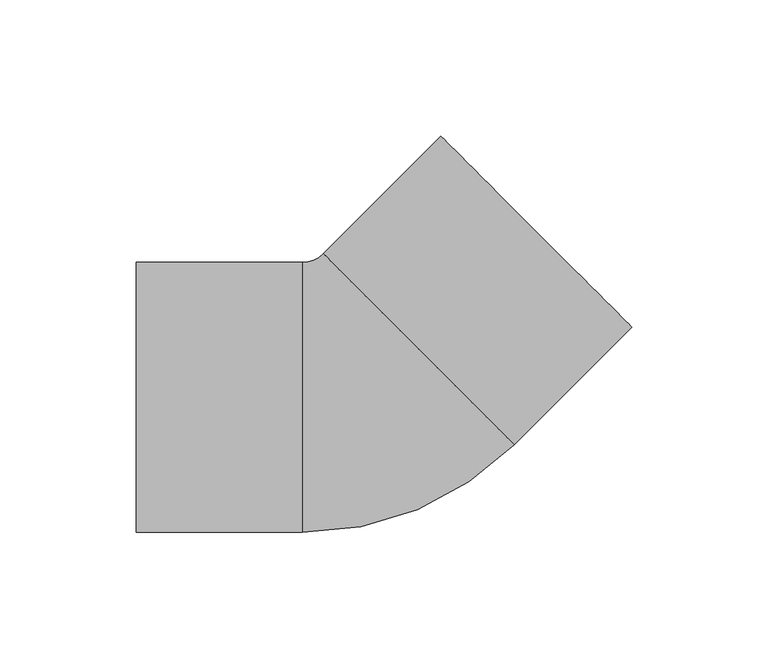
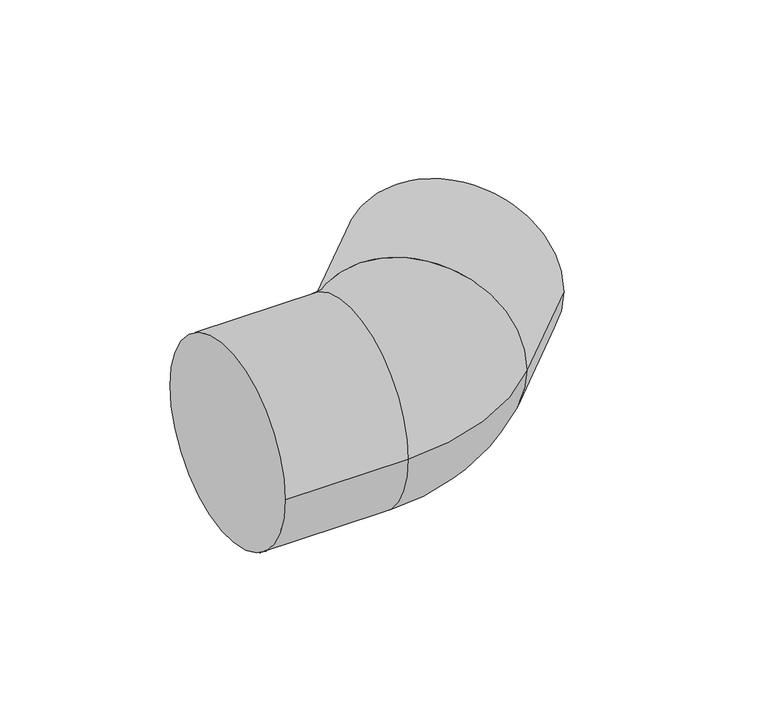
"""IFC4 building model written with IfcOpenShell, lengths in millimetres: pipe fitting geometry, 01051067 : Joelho a 45º."""

import ifcopenshell
import ifcopenshell.guid

model = None  # the IFC model being written
_history = None  # IfcOwnerHistory: only IFC2X3 demands one
_inside = {}  # id of a spatial element -> (the spatial element, [elements in it])
_under = {}  # id of a project, library or spatial element -> (it, [spatial elements below it])
_declared = {}  # id of a project -> (the project, [libraries it declares])
_typed = {}  # id of a type object -> (the type object, [elements of that type])
_made_of = {}  # id of a material, layer set ... -> (it, [elements and type objects made of it])


def new_model(schema):
    """Start an empty IFC model of exactly this schema.

    Asked for "IFC4X3", IfcOpenShell would pick the latest addendum, in which some entities
    have other attributes; the version numbers below select the first issue.
    IFC2X3 requires an IfcOwnerHistory on every rooted entity: one is made here for all.
    """
    global model, _history
    if schema == "IFC4X3":
        model = ifcopenshell.file(schema_version=(4, 3, 0, 0))
    else:
        model = ifcopenshell.file(schema=schema)
    _inside.clear()
    _under.clear()
    _declared.clear()
    _typed.clear()
    _made_of.clear()
    _history = None
    if model.schema == "IFC2X3":
        org = make("IfcOrganization", Name="unknown")
        user = make(
            "IfcPersonAndOrganization",
            ThePerson=make("IfcPerson", FamilyName="unknown"),
            TheOrganization=org,
        )
        app = make(
            "IfcApplication",
            ApplicationDeveloper=org,
            Version="unknown",
            ApplicationFullName="unknown",
            ApplicationIdentifier="unknown",
        )
        _history = make(
            "IfcOwnerHistory",
            OwningUser=user,
            OwningApplication=app,
            ChangeAction="ADDED",
            CreationDate=0,
        )
    return model


def make(cls, **values):
    """One entity of the class cls with the attributes given. An attribute that is None is left unset."""
    return model.create_entity(
        cls, **{name: value for name, value in values.items() if value is not None}
    )


def rooted(cls, **values):
    """An entity with a GlobalId (a new one), such as an element, a storey or a relation."""
    return make(cls, GlobalId=ifcopenshell.guid.new(), OwnerHistory=_history, **values)


def si_unit(unit_type, name, prefix=None):
    """IfcSIUnit, for example si_unit("LENGTHUNIT", "METRE", prefix="MILLI")."""
    return make("IfcSIUnit", UnitType=unit_type, Prefix=prefix, Name=name)


def assignment(units):
    """IfcUnitAssignment: the units of a project."""
    return None if units is None else make("IfcUnitAssignment", Units=units)


def point(xyz):
    """IfcCartesianPoint."""
    return None if xyz is None else make("IfcCartesianPoint", Coordinates=xyz)


def direction(xyz):
    """IfcDirection."""
    return None if xyz is None else make("IfcDirection", DirectionRatios=xyz)


def frame(location, z_axis=None, x_axis=None):
    """IfcAxis2Placement3D, a coordinate frame: its origin and axes. An axis left out is left unset."""
    return make(
        "IfcAxis2Placement3D",
        Location=point(location),
        Axis=direction(z_axis),
        RefDirection=direction(x_axis),
    )


def origin():
    """The frame at (0, 0, 0) with its axes left unset."""
    return frame((0.0, 0.0, 0.0))


def place(relative_to, where):
    """IfcLocalPlacement: puts the frame where relative to a parent placement (None: the world)."""
    return make(
        "IfcLocalPlacement", PlacementRelTo=relative_to, RelativePlacement=where
    )


def context(
    kind, dimensions, precision=None, world=None, true_north=None, identifier=None
):
    """IfcGeometricRepresentationContext, for example the 3D "Model" context."""
    return make(
        "IfcGeometricRepresentationContext",
        ContextIdentifier=identifier,
        ContextType=kind,
        CoordinateSpaceDimension=dimensions,
        Precision=precision,
        WorldCoordinateSystem=world,
        TrueNorth=true_north,
    )


def project(units=None, contexts=None):
    """IfcProject with its units and contexts."""
    return rooted(
        "IfcProject",
        Name="project",
        RepresentationContexts=contexts,
        UnitsInContext=assignment(units),
    )


def spatial(cls, under=None, at=None, **own):
    """A site, building, storey or space (cls), placed at a placement, below another one or the project."""
    s = rooted(cls, ObjectPlacement=at, **own)
    if under is not None:
        _under.setdefault(under.id(), (under, []))[1].append(s)
    return s


def circle_curve(where, radius):
    """IfcCircle in the frame where."""
    return make("IfcCircle", Position=where, Radius=radius)


def ellipse_curve(where, semi_axis1, semi_axis2):
    """IfcEllipse in the frame where."""
    return make(
        "IfcEllipse", Position=where, SemiAxis1=semi_axis1, SemiAxis2=semi_axis2
    )


def trimmed(basis, trim1, trim2, sense, master):
    """IfcTrimmedCurve: the piece of a basis curve between two trims."""
    return make(
        "IfcTrimmedCurve",
        BasisCurve=basis,
        Trim1=trim1,
        Trim2=trim2,
        SenseAgreement=sense,
        MasterRepresentation=master,
    )


def shape(context_of_items, identifier, shape_type, items):
    """IfcShapeRepresentation: the items that make up one representation, for example the "Body"."""
    return make(
        "IfcShapeRepresentation",
        ContextOfItems=context_of_items,
        RepresentationIdentifier=identifier,
        RepresentationType=shape_type,
        Items=items,
    )


def source(mapping_origin, context_of_items, identifier, shape_type, items):
    """IfcRepresentationMap: a shape defined once, which mapped items show again and again."""
    return make(
        "IfcRepresentationMap",
        MappingOrigin=mapping_origin,
        MappedRepresentation=shape(context_of_items, identifier, shape_type, items),
    )


def transform(
    local_origin,
    x_axis=None,
    y_axis=None,
    z_axis=None,
    scale=None,
    scale2=None,
    scale3=None,
    uniform=True,
):
    """IfcCartesianTransformationOperator3D, or its non-uniform kind. x_axis, y_axis, z_axis: its Axis1, 2, 3."""
    if uniform:
        return make(
            "IfcCartesianTransformationOperator3D",
            Axis1=direction(x_axis),
            Axis2=direction(y_axis),
            LocalOrigin=point(local_origin),
            Scale=scale,
            Axis3=direction(z_axis),
        )
    return make(
        "IfcCartesianTransformationOperator3DnonUniform",
        Axis1=direction(x_axis),
        Axis2=direction(y_axis),
        LocalOrigin=point(local_origin),
        Scale=scale,
        Axis3=direction(z_axis),
        Scale2=scale2,
        Scale3=scale3,
    )


def mapped(mapping_source, mapping_target):
    """IfcMappedItem: shows the shape of a source again, moved by a transform."""
    return make(
        "IfcMappedItem", MappingSource=mapping_source, MappingTarget=mapping_target
    )


def made_of(thing, what):
    """Note that an element or type object is made of a material, layer set ...; save() writes the relation."""
    if what is not None:
        _made_of.setdefault(what.id(), (what, []))[1].append(thing)
    return thing


def element(
    cls,
    number,
    at=None,
    inside=None,
    cuts=None,
    type_object=None,
    material=None,
    context=None,
    identifier="Body",
    shape_type=None,
    held_by="IfcProductDefinitionShape",
    body=None,
    shapes=None,
    **own,
):
    """One element of the class cls, such as IfcWall. Its Tag is "e" and its number.

    at: its placement. inside: the storey or other place that contains it. cuts: it is an
    opening in that element (IfcRelVoidsElement). A single representation is given by context,
    identifier, shape_type and body (its items); several are given by shapes. held_by: the class
    of the entity that holds the representations. save() writes the other relations.
    """
    e = rooted(cls, Tag="e%d" % number, ObjectPlacement=at, **own)
    if body is not None:
        shapes = [shape(context, identifier, shape_type, body)]
    if shapes is not None:
        e.Representation = make(held_by, Representations=shapes)
    if inside is not None:
        _inside.setdefault(inside.id(), (inside, []))[1].append(e)
    if cuts is not None:
        rooted(
            "IfcRelVoidsElement", RelatingBuildingElement=cuts, RelatedOpeningElement=e
        )
    if type_object is not None:
        _typed.setdefault(type_object.id(), (type_object, []))[1].append(e)
    return made_of(e, material)


def aggregate(whole, parts):
    """IfcRelAggregates: a whole, such as a stair, and the parts it consists of."""
    return rooted("IfcRelAggregates", RelatingObject=whole, RelatedObjects=parts)


def save(model, path):
    """Write the relations noted so far, then the file.

    IfcRelAggregates (storeys below a building ...), IfcRelContainedInSpatialStructure (elements
    in a storey), IfcRelDefinesByType, IfcRelAssociatesMaterial and IfcRelDeclares: one each for
    every whole, place, type object, material and project.
    """
    for whole, parts in _under.values():
        aggregate(whole, parts)
    for where, things in _inside.values():
        rooted(
            "IfcRelContainedInSpatialStructure",
            RelatedElements=things,
            RelatingStructure=where,
        )
    for kind, things in _typed.values():
        rooted("IfcRelDefinesByType", RelatedObjects=things, RelatingType=kind)
    for what, things in _made_of.values():
        rooted("IfcRelAssociatesMaterial", RelatedObjects=things, RelatingMaterial=what)
    for by, libraries in _declared.values():
        rooted("IfcRelDeclares", RelatingContext=by, RelatedDefinitions=libraries)
    model.write(path)


def plane_surface(at):
    """IfcPlane: the flat surface through the origin of the frame at, square to its z axis."""
    return make("IfcPlane", Position=at)


def cylinder_surface(at, radius):
    """IfcCylindricalSurface: all points at the distance radius from the z axis of the frame at."""
    return make("IfcCylindricalSurface", Position=at, Radius=radius)


def revolved_surface(curve, axis_point, axis_direction):
    """IfcSurfaceOfRevolution: the curve turned about the line through axis_point along axis_direction."""
    return make(
        "IfcSurfaceOfRevolution",
        SweptCurve=make("IfcArbitraryOpenProfileDef", ProfileType="CURVE", Curve=curve),
        AxisPosition=make("IfcAxis1Placement", Location=point(axis_point), Axis=direction(axis_direction)),
    )


def advanced_brep(points, edges, surfaces, faces):
    """IfcAdvancedBrep: a solid bounded by faces that lie on surfaces and meet in shared edges.

    An edge is (start, end): straight between two places in points (the first is 0);
    or (start, end, curve); or (start, end, curve, False) where it runs against its curve.
    A face is (place in surfaces, loops), or (place, loops, False) where it looks against
    its surface's normal. A loop lists edges by number (the first is 1), with a minus sign
    where the edge is run from its end to its start. The first loop is the outer one.
    """
    corners = [point(p) for p in points]
    vertices = [make("IfcVertexPoint", VertexGeometry=c) for c in corners]
    made = []
    for start, end, *more in edges:
        made.append(
            make(
                "IfcEdgeCurve",
                EdgeStart=vertices[start],
                EdgeEnd=vertices[end],
                EdgeGeometry=more[0] if more else make("IfcPolyline", Points=[corners[start], corners[end]]),
                SameSense=more[1] if len(more) > 1 else True,
            )
        )
    hull = []
    for where, loops, *sense in faces:
        bounds = []
        for j, loop in enumerate(loops):
            ring = [make("IfcOrientedEdge", EdgeElement=made[abs(k) - 1], Orientation=k > 0) for k in loop]
            bounds.append(
                make(
                    "IfcFaceOuterBound" if j == 0 else "IfcFaceBound",
                    Bound=make("IfcEdgeLoop", EdgeList=ring),
                    Orientation=True,
                )
            )
        hull.append(make("IfcAdvancedFace", Bounds=bounds, FaceSurface=surfaces[where], SameSense=sense[0] if sense else True))
    return make("IfcAdvancedBrep", Outer=make("IfcClosedShell", CfsFaces=hull))


def pipe_fitting_5fb77799(model_context):
    return source(origin(), model_context, "Body", "AdvancedBrep", [
        advanced_brep(
        [(-86.0, -49.5, 0.0), (-86.0, 49.5, 0.0), (-25.0, -49.5, 0.0), (-25.0, 49.5, 0.0), (-17.3241161, 52.6794552, 0.0), (52.6794552, -17.3241161, 0.0), (95.8129689, 25.8093975, 0.0), (25.8093975, 95.8129689, 0.0)],
        [
            (0, 1, circle_curve(frame((-86.0, 0.0, 0.0), z_axis=(-1.0, 0.0, 0.0), x_axis=(0.0, 1.0, 0.0)), 49.5)),
            (1, 0, circle_curve(frame((-86.0, 0.0, 0.0), z_axis=(-1.0, 0.0, 0.0), x_axis=(0.0, 1.0, 0.0)), 49.5)),
            (0, 2),
            (2, 3, circle_curve(frame((-25.0, 0.0, 0.0), z_axis=(-1.0, 0.0, 0.0), x_axis=(0.0, 1.0, 0.0)), 49.5)),
            (3, 1),
            (3, 2, circle_curve(frame((-25.0, 0.0, 0.0), z_axis=(-1.0, 0.0, 0.0), x_axis=(0.0, 1.0, 0.0)), 49.5)),
            (4, 3, circle_curve(frame((-25.0, 60.3553391, 0.0), z_axis=(0.0, 0.0, -1.0), x_axis=(0.0, -1.0, 0.0)), 10.8553391)),
            (2, 5, circle_curve(frame((-25.0, 60.3553391, 0.0), z_axis=(0.0, 0.0, 1.0), x_axis=(0.0, -1.0, 0.0)), 109.8553391)),
            (5, 4, circle_curve(frame((17.6776695, 17.6776695, 0.0), z_axis=(-0.7071067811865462, -0.7071067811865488, 0.0), x_axis=(-0.7071067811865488, 0.7071067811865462, 0.0)), 49.5)),
            (4, 5, circle_curve(frame((17.6776695, 17.6776695, 0.0), z_axis=(-0.7071067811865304, -0.7071067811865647, 0.0), x_axis=(-0.7071067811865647, 0.7071067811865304, 0.0)), 49.5)),
            (6, 7, circle_curve(frame((60.8111832, 60.8111832, 0.0), z_axis=(0.7071067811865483, 0.7071067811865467, 0.0), x_axis=(-0.7071067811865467, 0.7071067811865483, 0.0)), 49.5)),
            (7, 6, circle_curve(frame((60.8111832, 60.8111832, 0.0), z_axis=(0.7071067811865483, 0.7071067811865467, 0.0), x_axis=(-0.7071067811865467, 0.7071067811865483, 0.0)), 49.5)),
            (5, 6),
            (7, 4),
        ],
        [
            plane_surface(frame((-86.0, 0.0, 0.0), z_axis=(-1.0, 0.0, 0.0), x_axis=(0.0, 0.0, 1.0))),
            cylinder_surface(frame((-86.0, 0.0, 0.0), z_axis=(-1.0, 0.0, 0.0), x_axis=(0.0, 1.0, 0.0)), 49.5),
            revolved_surface(trimmed(ellipse_curve(frame((-25.0, 0.0, 0.0), z_axis=(-1.0, 0.0, 0.0), x_axis=(0.0, 1.0, 0.0)), 49.5, 49.5), [point((-25.0, -49.5, 0.0))], [point((-25.0, 49.5, 0.0))], True, "CARTESIAN"), (-25.0, 60.3553391, 0.0), (0.0, 0.0, 1.0)),
            revolved_surface(trimmed(ellipse_curve(frame((-25.0, 0.0, 0.0), z_axis=(-1.0, 0.0, 0.0), x_axis=(0.0, 1.0, 0.0)), 49.5, 49.5), [point((-25.0, 49.5, 0.0))], [point((-25.0, -49.5, 0.0))], True, "CARTESIAN"), (-25.0, 60.3553391, 0.0), (0.0, 0.0, 1.0)),
            plane_surface(frame((60.8111832, 60.8111832, 0.0), z_axis=(0.7071067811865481, 0.707106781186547, 0.0), x_axis=(0.0, 0.0, 1.0))),
            cylinder_surface(frame((17.6776695, 17.6776695, 0.0), z_axis=(-0.7071067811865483, -0.7071067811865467, 0.0), x_axis=(-0.7071067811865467, 0.7071067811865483, 0.0)), 49.5),
        ],
        [
            (0, [[1, 2]]),
            (1, [[-1, 3, 4, 5]]),
            (1, [[-2, -5, 6, -3]]),
            (2, [[7, -4, 8, 9]]),
            (3, [[-8, -6, -7, 10]]),
            (4, [[11, 12]]),
            (5, [[-9, 13, -12, 14]]),
            (5, [[-10, -14, -11, -13]]),
        ],
    ),
    ])


if __name__ == "__main__":
    model = new_model("IFC4")
    model_context = context("Model", 3, world=origin())
    ifc_project = project(units=[si_unit("LENGTHUNIT", "METRE", prefix="MILLI")], contexts=[model_context])
    site = spatial("IfcSite", under=ifc_project)
    building = spatial("IfcBuilding", under=site)
    placement = place(None, origin())
    pipe_fitting_shape = pipe_fitting_5fb77799(model_context)
    element("IfcPipeFitting", 1, ObjectType="01051067 : Joelho a 45º", at=placement, inside=building, context=model_context, shape_type="MappedRepresentation", body=[
        mapped(pipe_fitting_shape, transform((0.0, 0.0, 0.0), x_axis=(1.0, 0.0, 0.0), y_axis=(0.0, 1.0, 0.0), z_axis=(0.0, 0.0, 1.0))),
    ])
    save(model, "model.ifc")
